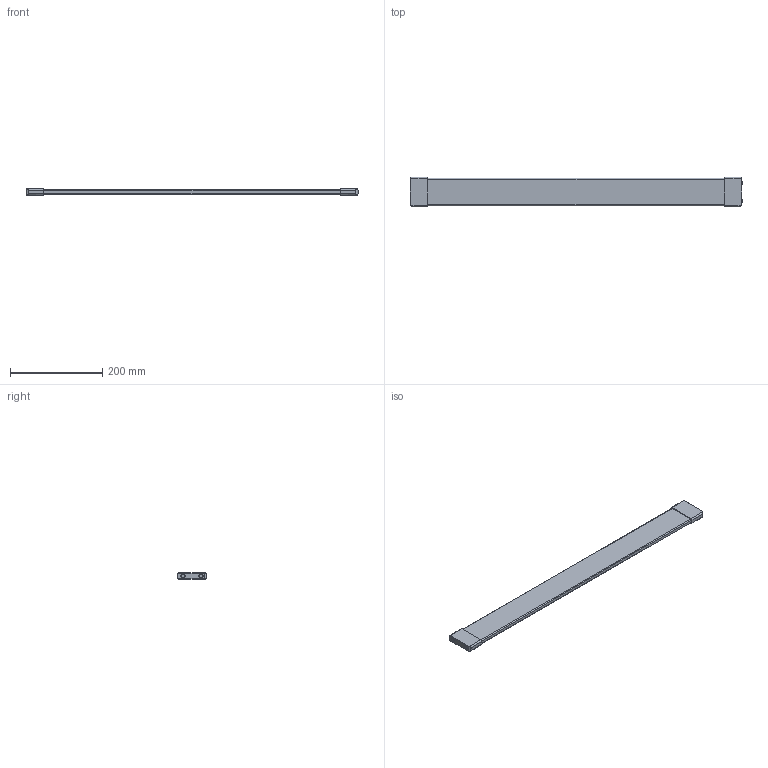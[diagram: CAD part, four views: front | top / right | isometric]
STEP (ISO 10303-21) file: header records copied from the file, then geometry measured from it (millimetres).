
FILE_DESCRIPTION (( 'STEP AP214' ), '1' );
FILE_NAME ('Schubkastenteiler_PROKAB_800.step', '2009-11-04T15:16:49', ( 'Waldinger Reinhard' ), ( 'Grass GmbH' ), 'SwSTEP 2.0', 'SolidWorks 2009', '' );
FILE_SCHEMA (( 'AUTOMOTIVE_DESIGN' ));
Length unit declared in the file: millimetre
Products named in the file (1): Schubkastenteiler_PROKAB_800
Bounding box: 717.9 x 63.7 x 13 mm (x, y, z)
Volume: 435237.3 mm3; surface area: 100205.3 mm2
Topology: 1 solids, 1 shells, 92 faces, 208 edges, 124 vertices
Faces by surface type: cylinder 38, torus 28, plane 22, bspline 4
Entity records: 3210 total; most frequent: CARTESIAN_POINT 1069, DIRECTION 486, ORIENTED_EDGE 416, EDGE_CURVE 208, AXIS2_PLACEMENT_3D 205, VERTEX_POINT 124, CIRCLE 116, EDGE_LOOP 98
